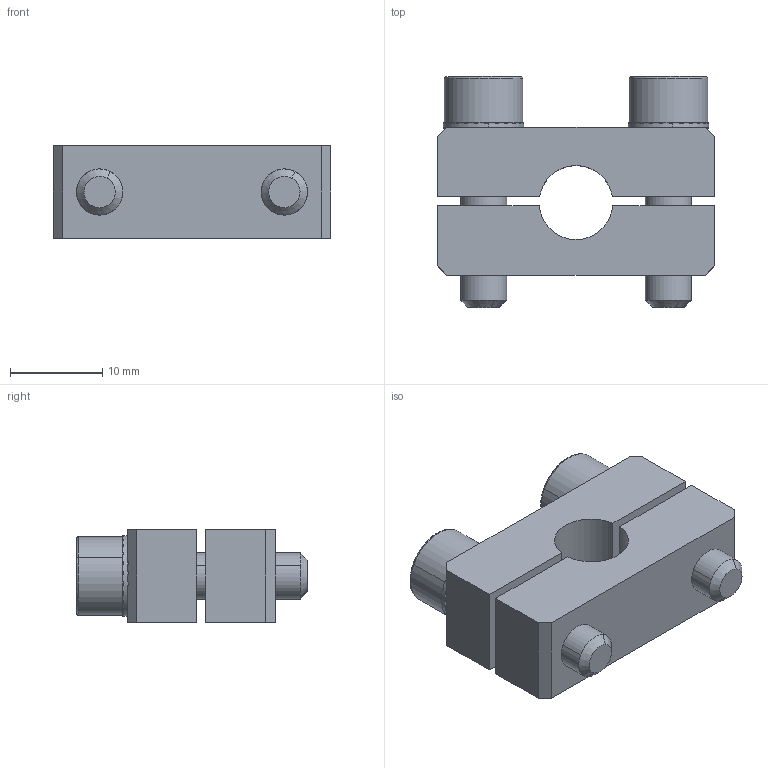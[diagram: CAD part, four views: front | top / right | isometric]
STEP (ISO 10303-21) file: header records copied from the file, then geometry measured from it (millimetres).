
FILE_DESCRIPTION (( 'STEP AP214' ), '1' );
FILE_NAME ('SMBK1-8T10.STEP', '2019-11-07T00:32:59', ( '微软用户' ), ( '微软中国' ), 'SwSTEP 2.0', 'SolidWorks 2016', '' );
FILE_SCHEMA (( 'AUTOMOTIVE_DESIGN' ));
Length unit declared in the file: millimetre
Products named in the file (1): SMBK1-8T10
Bounding box: 30 x 25 x 10 mm (x, y, z)
Volume: 4750.5 mm3; surface area: 4100.7 mm2
Topology: 6 solids, 6 shells, 457 faces, 1315 edges, 870 vertices
Faces by surface type: plane 422, cylinder 27, cone 4, bspline 4
Entity records: 20421 total; most frequent: CARTESIAN_POINT 2913, DIRECTION 2645, ORIENTED_EDGE 2630, EDGE_CURVE 1315, AXIS2_PLACEMENT_3D 884, VECTOR 877, LINE 877, VERTEX_POINT 870
